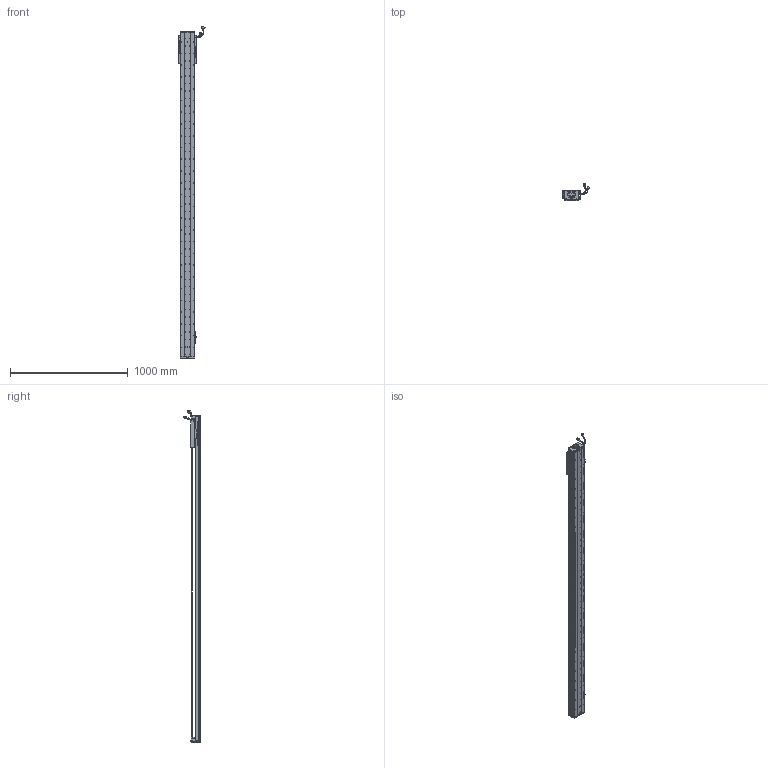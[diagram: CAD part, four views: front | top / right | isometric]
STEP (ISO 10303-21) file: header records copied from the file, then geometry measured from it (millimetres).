
FILE_DESCRIPTION (( 'STEP AP203' ), '1' );
FILE_NAME ('Z3-RY120D-1-L500-B-K.SLDASM_2450.step', '2021-05-17T05:50:18', ( '盈信电脑' ), ( '东莞市道滘镇水果街19号' ), 'SwSTEP 2.0', 'SolidWorks 2016', '' );
FILE_SCHEMA (( 'CONFIG_CONTROL_DESIGN' ));
Length unit declared in the file: millimetre
Products named in the file (37): Z3-RY120D-1-L500-B-K.SLDASM_2450; SCALE; SEAL-Part-1; SCREW-M1.6-1; SCALE-Part-2; RY100FB-遵嫖萇覜茼え; SCREW-M1.7; PBU_SHEET; 覜茼ん672; 榋妏寠巭燃_暯_M2_2; 140蚥薯蝶輸; 672嫖萇羲壽假蚾釱; Z3-RY120-500-倰第菁釱_2450; 140雄赽晤鎢ん堤盄; Z-RY120D詩湍奻揤裔; HOLDER0; HARNESS; 080黍杅芛假蚾釱21遴; SCALE-Part-1; SCREW-M1.7-1; LABEL-Part-1; SCREW-M1.6; COVER; COVER-Part-1; SCREW-M1.6-2; Z-RY120D詩湍狟揤裔; HARNESS-Part-1; Z3-RY120铝滑块（21款）; HARNESS-Part-2; SEAL; PSLH080_PSLF2; LABEL; Z-120詩湍傷裔啣; 120-Z-臏賑輸盄裔(21遴); Z3-RY120-L500詩湍100mm遵_2450; SCREW-M1.6-3; SHIELDPLATE
Assembly tree (43 placements, depth 4):
  Z3-RY120D-1-L500-B-K.SLDASM_2450
    Z3-RY120-500-倰第菁釱_2450
    覜茼ん672  x3
    672嫖萇羲壽假蚾釱  x2
    Z3-RY120铝滑块（21款）
    PSLH080_PSLF2
      SCALE
        SCALE-Part-1
        SCALE-Part-2
      HARNESS
        HARNESS-Part-1
        HARNESS-Part-2
      LABEL
        LABEL-Part-1
      COVER
        COVER-Part-1
      SEAL
        SEAL-Part-1
      榋妏寠巭燃_暯_M2_2
      SHIELDPLATE
      SCREW-M1.7
      SCREW-M1.7-1
      PBU_SHEET
      SCREW-M1.6
      SCREW-M1.6-1
      SCREW-M1.6-2
      SCREW-M1.6-3
      HOLDER0
    080黍杅芛假蚾釱21遴
    120-Z-臏賑輸盄裔(21遴)
    140雄赽晤鎢ん堤盄
    140蚥薯蝶輸  x2
    RY100FB-遵嫖萇覜茼え
    Z-120詩湍傷裔啣  x2
    Z-RY120D詩湍奻揤裔  x2
    Z-RY120D詩湍狟揤裔  x2
    Z3-RY120-L500詩湍100mm遵_2450
Bounding box: 222.83 x 140.94 x 2823.99 mm (x, y, z)
Volume: 6588410.2 mm3; surface area: 2305280 mm2
Topology: 38 solids, 38 shells, 3757 faces, 10725 edges, 6764 vertices
Faces by surface type: cylinder 1985, plane 1256, cone 394, torus 69, bspline 53
Entity records: 126702 total; most frequent: CARTESIAN_POINT 38951, ORIENTED_EDGE 18186, DIRECTION 16643, EDGE_CURVE 9093, AXIS2_PLACEMENT_3D 6162, VERTEX_POINT 5884, VECTOR 4319, LINE 4319
